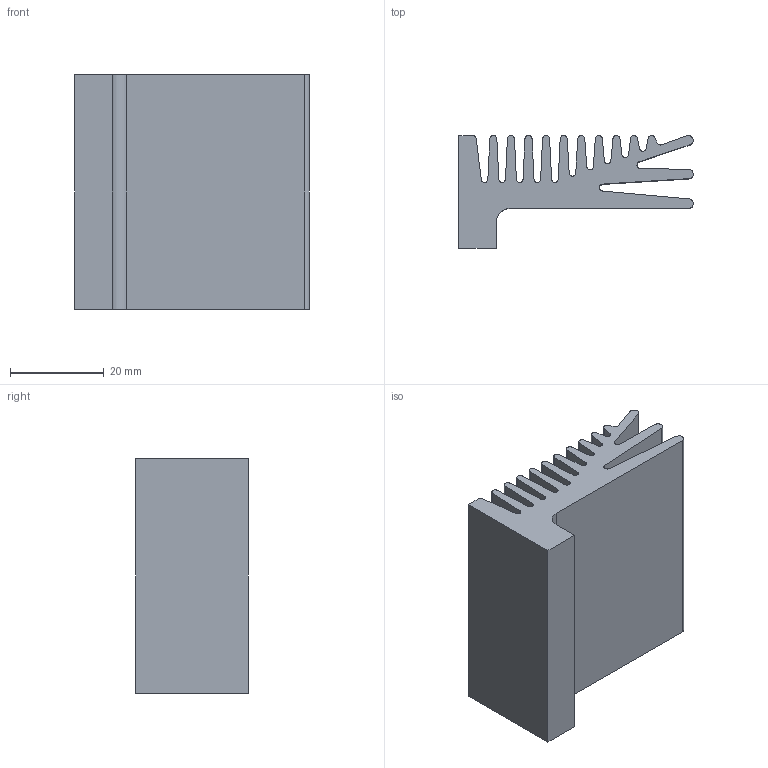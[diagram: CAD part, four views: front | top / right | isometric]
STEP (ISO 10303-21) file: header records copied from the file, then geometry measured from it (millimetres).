
FILE_DESCRIPTION (( 'STEP AP203' ), '1' );
FILE_NAME ('PR 144-50.step', '2002-10-20T23:43:38', ( 'Wolfgang Müller' ), ( 'DPS' ), 'SwSTEP 2.0', 'SolidWorks 2002264', '' );
FILE_SCHEMA (( 'CONFIG_CONTROL_DESIGN' ));
Length unit declared in the file: millimetre
Products named in the file (1): PR 144-50
Bounding box: 50 x 24 x 50 mm (x, y, z)
Volume: 29367.9 mm3; surface area: 18244.1 mm2
Topology: 1 solids, 1 shells, 63 faces, 183 edges, 122 vertices
Faces by surface type: plane 33, cylinder 30
Entity records: 2174 total; most frequent: DIRECTION 371, CARTESIAN_POINT 369, ORIENTED_EDGE 366, EDGE_CURVE 183, AXIS2_PLACEMENT_3D 124, LINE 123, VECTOR 123, VERTEX_POINT 122
